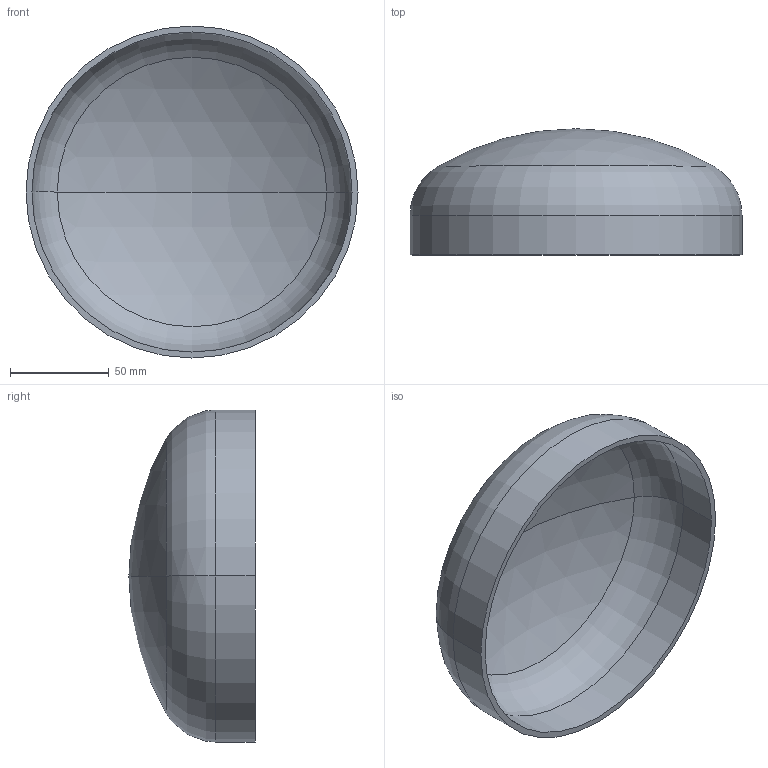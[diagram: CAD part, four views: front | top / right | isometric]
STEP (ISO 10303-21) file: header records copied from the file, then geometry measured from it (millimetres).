
FILE_DESCRIPTION (( 'STEP AP203' ), '1' );
FILE_NAME ('DIN 28013 Korbbogenform_-_Boden DIN 28013 - 168,3 x 20 - I - s=3.step', '2016-07-01T07:41:24', ( '' ), ( '' ), 'SwSTEP 2.0', 'SolidWorks 2013', '' );
FILE_SCHEMA (( 'CONFIG_CONTROL_DESIGN' ));
Length unit declared in the file: millimetre
Products named in the file (1): DIN 28013 Korbbogenform_-_Boden DIN 28013 - 168,3 x 20 - I - s=3
Bounding box: 168.3 x 63.98 x 168.3 mm (x, y, z)
Volume: 121479.8 mm3; surface area: 82563.3 mm2
Topology: 1 solids, 1 shells, 13 faces, 24 edges, 14 vertices
Faces by surface type: torus 4, cylinder 4, sphere 4, plane 1
Entity records: 407 total; most frequent: DIRECTION 72, CARTESIAN_POINT 52, ORIENTED_EDGE 48, AXIS2_PLACEMENT_3D 34, EDGE_CURVE 24, CIRCLE 20, VERTEX_POINT 14, EDGE_LOOP 14
